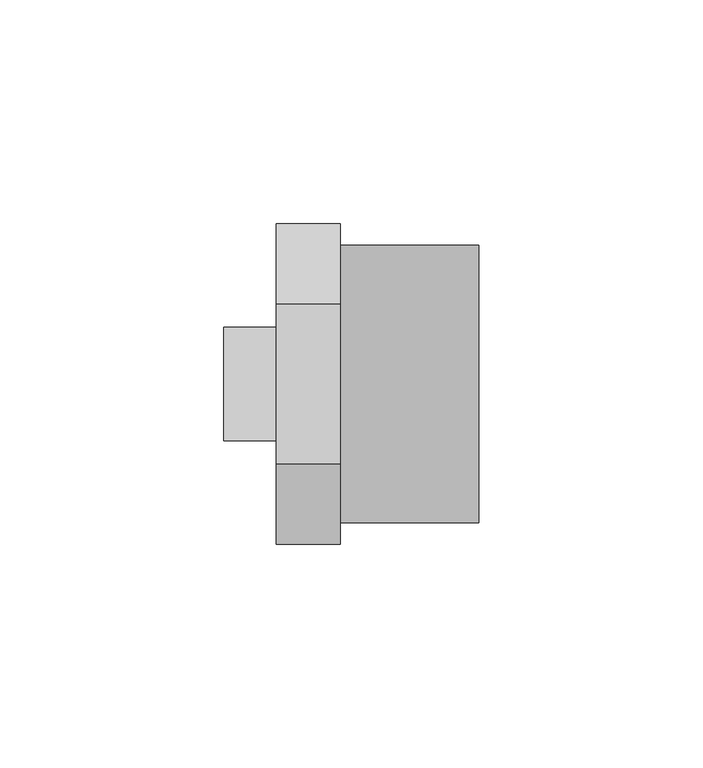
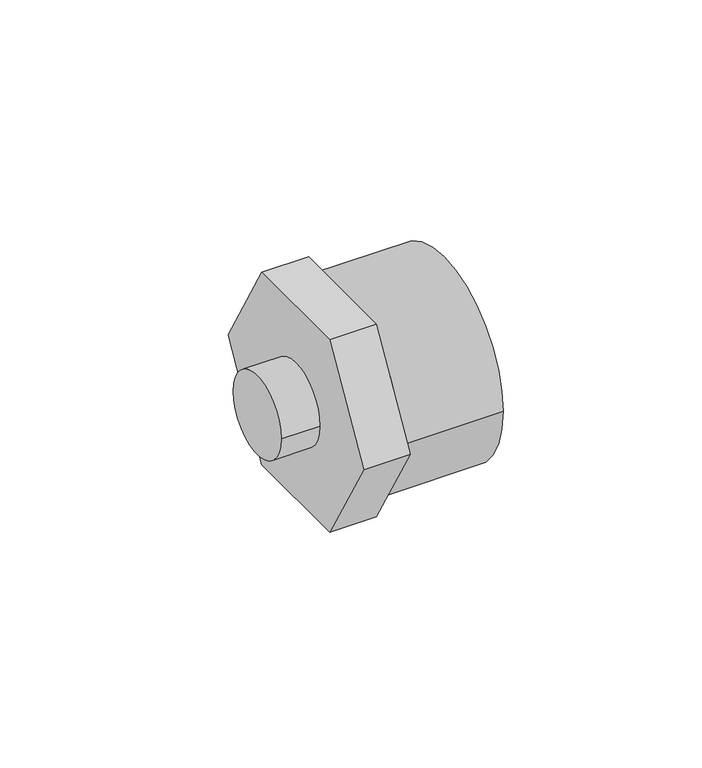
"""IFC4 building model written with IfcOpenShell, lengths in millimetres: pipe fitting geometry, 01101006_ : Reducciones H/M."""

import ifcopenshell
import ifcopenshell.guid

model = None  # the IFC model being written
_history = None  # IfcOwnerHistory: only IFC2X3 demands one
_inside = {}  # id of a spatial element -> (the spatial element, [elements in it])
_under = {}  # id of a project, library or spatial element -> (it, [spatial elements below it])
_declared = {}  # id of a project -> (the project, [libraries it declares])
_typed = {}  # id of a type object -> (the type object, [elements of that type])
_made_of = {}  # id of a material, layer set ... -> (it, [elements and type objects made of it])


def new_model(schema):
    """Start an empty IFC model of exactly this schema.

    Asked for "IFC4X3", IfcOpenShell would pick the latest addendum, in which some entities
    have other attributes; the version numbers below select the first issue.
    IFC2X3 requires an IfcOwnerHistory on every rooted entity: one is made here for all.
    """
    global model, _history
    if schema == "IFC4X3":
        model = ifcopenshell.file(schema_version=(4, 3, 0, 0))
    else:
        model = ifcopenshell.file(schema=schema)
    _inside.clear()
    _under.clear()
    _declared.clear()
    _typed.clear()
    _made_of.clear()
    _history = None
    if model.schema == "IFC2X3":
        org = make("IfcOrganization", Name="unknown")
        user = make(
            "IfcPersonAndOrganization",
            ThePerson=make("IfcPerson", FamilyName="unknown"),
            TheOrganization=org,
        )
        app = make(
            "IfcApplication",
            ApplicationDeveloper=org,
            Version="unknown",
            ApplicationFullName="unknown",
            ApplicationIdentifier="unknown",
        )
        _history = make(
            "IfcOwnerHistory",
            OwningUser=user,
            OwningApplication=app,
            ChangeAction="ADDED",
            CreationDate=0,
        )
    return model


def make(cls, **values):
    """One entity of the class cls with the attributes given. An attribute that is None is left unset."""
    return model.create_entity(
        cls, **{name: value for name, value in values.items() if value is not None}
    )


def rooted(cls, **values):
    """An entity with a GlobalId (a new one), such as an element, a storey or a relation."""
    return make(cls, GlobalId=ifcopenshell.guid.new(), OwnerHistory=_history, **values)


def si_unit(unit_type, name, prefix=None):
    """IfcSIUnit, for example si_unit("LENGTHUNIT", "METRE", prefix="MILLI")."""
    return make("IfcSIUnit", UnitType=unit_type, Prefix=prefix, Name=name)


def assignment(units):
    """IfcUnitAssignment: the units of a project."""
    return None if units is None else make("IfcUnitAssignment", Units=units)


def point(xyz):
    """IfcCartesianPoint."""
    return None if xyz is None else make("IfcCartesianPoint", Coordinates=xyz)


def direction(xyz):
    """IfcDirection."""
    return None if xyz is None else make("IfcDirection", DirectionRatios=xyz)


def frame(location, z_axis=None, x_axis=None):
    """IfcAxis2Placement3D, a coordinate frame: its origin and axes. An axis left out is left unset."""
    return make(
        "IfcAxis2Placement3D",
        Location=point(location),
        Axis=direction(z_axis),
        RefDirection=direction(x_axis),
    )


def frame_2d(location, x_axis=None):
    """IfcAxis2Placement2D, a coordinate frame in the plane: its origin and x axis."""
    return make(
        "IfcAxis2Placement2D", Location=point(location), RefDirection=direction(x_axis)
    )


def origin():
    """The frame at (0, 0, 0) with its axes left unset."""
    return frame((0.0, 0.0, 0.0))


def origin_2d():
    """The frame at (0, 0) in the plane with its x axis left unset."""
    return frame_2d((0.0, 0.0))


def place(relative_to, where):
    """IfcLocalPlacement: puts the frame where relative to a parent placement (None: the world)."""
    return make(
        "IfcLocalPlacement", PlacementRelTo=relative_to, RelativePlacement=where
    )


def context(
    kind, dimensions, precision=None, world=None, true_north=None, identifier=None
):
    """IfcGeometricRepresentationContext, for example the 3D "Model" context."""
    return make(
        "IfcGeometricRepresentationContext",
        ContextIdentifier=identifier,
        ContextType=kind,
        CoordinateSpaceDimension=dimensions,
        Precision=precision,
        WorldCoordinateSystem=world,
        TrueNorth=true_north,
    )


def project(units=None, contexts=None):
    """IfcProject with its units and contexts."""
    return rooted(
        "IfcProject",
        Name="project",
        RepresentationContexts=contexts,
        UnitsInContext=assignment(units),
    )


def spatial(cls, under=None, at=None, **own):
    """A site, building, storey or space (cls), placed at a placement, below another one or the project."""
    s = rooted(cls, ObjectPlacement=at, **own)
    if under is not None:
        _under.setdefault(under.id(), (under, []))[1].append(s)
    return s


def polyline(points):
    """IfcPolyline through the points."""
    return make("IfcPolyline", Points=[point(p) for p in points])


def circle_curve(where, radius):
    """IfcCircle in the frame where."""
    return make("IfcCircle", Position=where, Radius=radius)


def trimmed(basis, trim1, trim2, sense, master):
    """IfcTrimmedCurve: the piece of a basis curve between two trims."""
    return make(
        "IfcTrimmedCurve",
        BasisCurve=basis,
        Trim1=trim1,
        Trim2=trim2,
        SenseAgreement=sense,
        MasterRepresentation=master,
    )


def segment(curve, same_sense, transition):
    """IfcCompositeCurveSegment."""
    return make(
        "IfcCompositeCurveSegment",
        Transition=transition,
        SameSense=same_sense,
        ParentCurve=curve,
    )


def composite_curve(segments, self_intersect=None):
    """IfcCompositeCurve: segments joined end to end."""
    return make("IfcCompositeCurve", Segments=segments, SelfIntersect=self_intersect)


def outline(outer, holes=None, kind="AREA"):
    """IfcArbitraryClosedProfileDef: a profile drawn as a closed curve; with holes, ...WithVoids."""
    if holes is None:
        return make("IfcArbitraryClosedProfileDef", ProfileType=kind, OuterCurve=outer)
    return make(
        "IfcArbitraryProfileDefWithVoids",
        ProfileType=kind,
        OuterCurve=outer,
        InnerCurves=holes,
    )


def extrude(swept, where, along, depth):
    """IfcExtrudedAreaSolid: the profile swept, set in the frame where, extruded along a direction by depth."""
    return make(
        "IfcExtrudedAreaSolid",
        SweptArea=swept,
        Position=where,
        ExtrudedDirection=direction(along),
        Depth=depth,
    )


def shape(context_of_items, identifier, shape_type, items):
    """IfcShapeRepresentation: the items that make up one representation, for example the "Body"."""
    return make(
        "IfcShapeRepresentation",
        ContextOfItems=context_of_items,
        RepresentationIdentifier=identifier,
        RepresentationType=shape_type,
        Items=items,
    )


def source(mapping_origin, context_of_items, identifier, shape_type, items):
    """IfcRepresentationMap: a shape defined once, which mapped items show again and again."""
    return make(
        "IfcRepresentationMap",
        MappingOrigin=mapping_origin,
        MappedRepresentation=shape(context_of_items, identifier, shape_type, items),
    )


def transform(
    local_origin,
    x_axis=None,
    y_axis=None,
    z_axis=None,
    scale=None,
    scale2=None,
    scale3=None,
    uniform=True,
):
    """IfcCartesianTransformationOperator3D, or its non-uniform kind. x_axis, y_axis, z_axis: its Axis1, 2, 3."""
    if uniform:
        return make(
            "IfcCartesianTransformationOperator3D",
            Axis1=direction(x_axis),
            Axis2=direction(y_axis),
            LocalOrigin=point(local_origin),
            Scale=scale,
            Axis3=direction(z_axis),
        )
    return make(
        "IfcCartesianTransformationOperator3DnonUniform",
        Axis1=direction(x_axis),
        Axis2=direction(y_axis),
        LocalOrigin=point(local_origin),
        Scale=scale,
        Axis3=direction(z_axis),
        Scale2=scale2,
        Scale3=scale3,
    )


def mapped(mapping_source, mapping_target):
    """IfcMappedItem: shows the shape of a source again, moved by a transform."""
    return make(
        "IfcMappedItem", MappingSource=mapping_source, MappingTarget=mapping_target
    )


def made_of(thing, what):
    """Note that an element or type object is made of a material, layer set ...; save() writes the relation."""
    if what is not None:
        _made_of.setdefault(what.id(), (what, []))[1].append(thing)
    return thing


def element(
    cls,
    number,
    at=None,
    inside=None,
    cuts=None,
    type_object=None,
    material=None,
    context=None,
    identifier="Body",
    shape_type=None,
    held_by="IfcProductDefinitionShape",
    body=None,
    shapes=None,
    **own,
):
    """One element of the class cls, such as IfcWall. Its Tag is "e" and its number.

    at: its placement. inside: the storey or other place that contains it. cuts: it is an
    opening in that element (IfcRelVoidsElement). A single representation is given by context,
    identifier, shape_type and body (its items); several are given by shapes. held_by: the class
    of the entity that holds the representations. save() writes the other relations.
    """
    e = rooted(cls, Tag="e%d" % number, ObjectPlacement=at, **own)
    if body is not None:
        shapes = [shape(context, identifier, shape_type, body)]
    if shapes is not None:
        e.Representation = make(held_by, Representations=shapes)
    if inside is not None:
        _inside.setdefault(inside.id(), (inside, []))[1].append(e)
    if cuts is not None:
        rooted(
            "IfcRelVoidsElement", RelatingBuildingElement=cuts, RelatedOpeningElement=e
        )
    if type_object is not None:
        _typed.setdefault(type_object.id(), (type_object, []))[1].append(e)
    return made_of(e, material)


def aggregate(whole, parts):
    """IfcRelAggregates: a whole, such as a stair, and the parts it consists of."""
    return rooted("IfcRelAggregates", RelatingObject=whole, RelatedObjects=parts)


def save(model, path):
    """Write the relations noted so far, then the file.

    IfcRelAggregates (storeys below a building ...), IfcRelContainedInSpatialStructure (elements
    in a storey), IfcRelDefinesByType, IfcRelAssociatesMaterial and IfcRelDeclares: one each for
    every whole, place, type object, material and project.
    """
    for whole, parts in _under.values():
        aggregate(whole, parts)
    for where, things in _inside.values():
        rooted(
            "IfcRelContainedInSpatialStructure",
            RelatedElements=things,
            RelatingStructure=where,
        )
    for kind, things in _typed.values():
        rooted("IfcRelDefinesByType", RelatedObjects=things, RelatingType=kind)
    for what, things in _made_of.values():
        rooted("IfcRelAssociatesMaterial", RelatedObjects=things, RelatingMaterial=what)
    for by, libraries in _declared.values():
        rooted("IfcRelDeclares", RelatingContext=by, RelatedDefinitions=libraries)
    model.write(path)


def pipe_fitting_88616b2c(model_context):
    return source(origin(), model_context, "Body", "SweptSolid", [
        extrude(outline(composite_curve([segment(trimmed(circle_curve(origin_2d(), 12.7), [point((12.7, 0.0))], [point((-12.7, 0.0))], False, "CARTESIAN"), True, "CONTINUOUS"), segment(trimmed(circle_curve(origin_2d(), 12.7), [point((-12.7, 0.0))], [point((12.7, 0.0))], False, "CARTESIAN"), True, "CONTINUOUS")], self_intersect=False)), frame((0.0, 0.0, 0.0), z_axis=(1.0, 0.0, 0.0), x_axis=(0.0, 1.0, 0.0)), (0.0, 0.0, 1.0), 11.75),
        extrude(outline(polyline([(-17.8978583, 31.0), (17.8978583, 31.0), (35.7957167, 0.0), (17.8978583, -31.0), (-17.8978583, -31.0), (-35.7957167, 0.0), (-17.8978583, 31.0)])), frame((11.75, 0.0, 0.0), z_axis=(1.0, 0.0, 0.0), x_axis=(0.0, 1.0, 0.0)), (0.0, 0.0, 1.0), 14.25),
        extrude(outline(composite_curve([segment(trimmed(circle_curve(origin_2d(), 31.0), [point((-31.0, 0.0))], [point((31.0, 0.0))], False, "CARTESIAN"), True, "CONTINUOUS"), segment(trimmed(circle_curve(origin_2d(), 31.0), [point((31.0, 0.0))], [point((-31.0, 0.0))], False, "CARTESIAN"), True, "CONTINUOUS")], self_intersect=False)), frame((26.0, 0.0, 0.0), z_axis=(1.0, 0.0, 0.0), x_axis=(0.0, 1.0, 0.0)), (0.0, 0.0, 1.0), 31.0),
    ])


if __name__ == "__main__":
    model = new_model("IFC4")
    model_context = context("Model", 3, world=origin())
    ifc_project = project(units=[si_unit("LENGTHUNIT", "METRE", prefix="MILLI")], contexts=[model_context])
    site = spatial("IfcSite", under=ifc_project)
    building = spatial("IfcBuilding", under=site)
    placement = place(None, origin())
    pipe_fitting_shape = pipe_fitting_88616b2c(model_context)
    element("IfcPipeFitting", 1, ObjectType="01101006_ : Reducciones H/M", at=placement, inside=building, context=model_context, shape_type="MappedRepresentation", body=[
        mapped(pipe_fitting_shape, transform((0.0, 0.0, 0.0), x_axis=(1.0, 0.0, 0.0), y_axis=(0.0, 1.0, 0.0), z_axis=(0.0, 0.0, 1.0))),
    ])
    save(model, "model.ifc")
